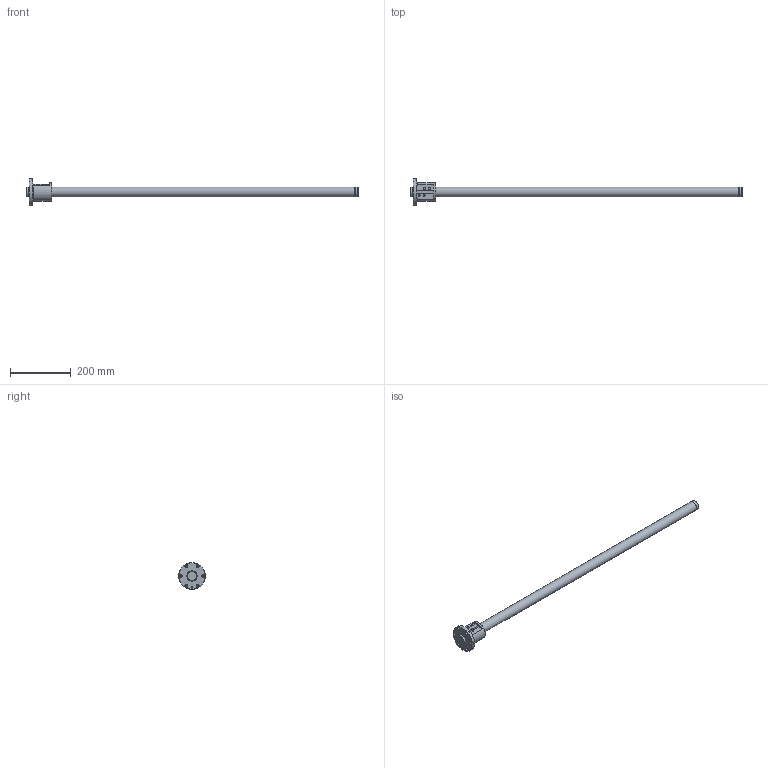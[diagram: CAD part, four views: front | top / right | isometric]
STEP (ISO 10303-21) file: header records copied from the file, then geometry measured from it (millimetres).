
FILE_DESCRIPTION( ( 'STEP AP203' ), ' ' );
FILE_NAME( 'p:/temp/worker_49/1856_1980/app_78_12018011812061620944004818fa3fd_000000_00_00_000000/format_0/BIF3206-7RRG0+1095LC0_10000.stp', '2018-01-18T11:06:17', ( '' ), ( '' ), ' ', 'PARTsolutions', ' ' );
FILE_SCHEMA( ( 'CONFIG_CONTROL_DESIGN' ) );
Length unit declared in the file: millimetre
Products named in the file (3): BIF3206-7RRG0+1095LC0_10000; _BIF 3206-7RR1000500 Shaft; _BIF 3206-7RR Nut
Assembly tree (2 placements, depth 2):
  BIF3206-7RRG0+1095LC0_10000
    _BIF 3206-7RR1000500 Shaft
    _BIF 3206-7RR Nut
Bounding box: 1095 x 89 x 89 mm (x, y, z)
Volume: 1062799.4 mm3; surface area: 149330.4 mm2
Topology: 2 solids, 2 shells, 82 faces, 178 edges, 113 vertices
Faces by surface type: cylinder 39, plane 31, cone 8, torus 4
Full cylindrical faces by diameter (mm): 4.25 x2, 4.917 x1, 5.8 x4, 6.6 x6, 11 x6, 31.5 x2, 32 x4, 34.8 x2, 62 x1, 89 x1
Entity records: 2498 total; most frequent: CARTESIAN_POINT 707, DIRECTION 376, ORIENTED_EDGE 262, AXIS2_PLACEMENT_3D 172, EDGE_LOOP 156, EDGE_CURVE 131, FACE_OUTER_BOUND 111, VERTEX_POINT 103
